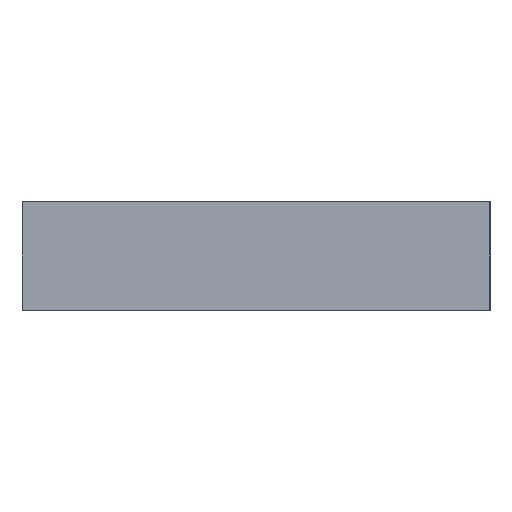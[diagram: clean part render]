
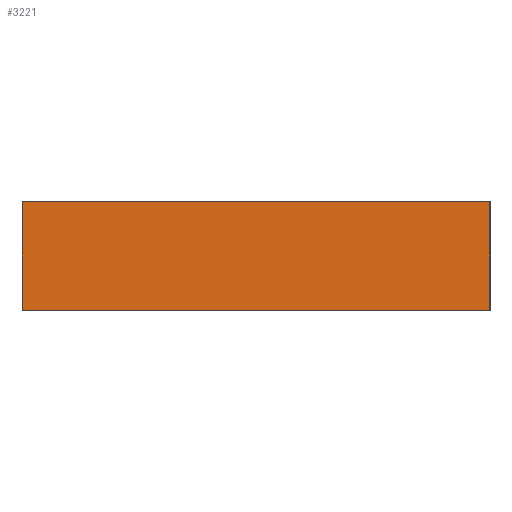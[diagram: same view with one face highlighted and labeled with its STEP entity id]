
A CAD part, left-side view. The second image highlights one B-rep face of the part: STEP entity #3221.
In plain terms, the highlighted planar face has unit normal (-1, 0, 0).
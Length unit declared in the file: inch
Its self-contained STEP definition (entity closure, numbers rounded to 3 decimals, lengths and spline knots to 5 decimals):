
#325 = LINE ( 'NONE', #10766, #9100 ) ;
#1085 = EDGE_CURVE ( 'NONE', #5265, #9794, #11584, .T. ) ;
#1321 = VECTOR ( 'NONE', #4287, 39.37008 ) ;
#3097 = FACE_OUTER_BOUND ( 'NONE', #10576, .T. ) ;
#3221 = ADVANCED_FACE ( 'NONE', ( #3097 ), #10520, .F. ) ;
#3493 = ORIENTED_EDGE ( 'NONE', *, *, #1085, .T. ) ;
#3854 = DIRECTION ( 'NONE',  ( 0., 1., 0. ) ) ;
#4287 = DIRECTION ( 'NONE',  ( 0., 0., 1. ) ) ;
#4522 = LINE ( 'NONE', #5697, #7163 ) ;
#5170 = ORIENTED_EDGE ( 'NONE', *, *, #10368, .T. ) ;
#5186 = ORIENTED_EDGE ( 'NONE', *, *, #7156, .F. ) ;
#5265 = VERTEX_POINT ( 'NONE', #7233 ) ;
#5697 = CARTESIAN_POINT ( 'NONE',  ( -14.09375, 22.9375, -2.65625 ) ) ;
#5859 = CARTESIAN_POINT ( 'NONE',  ( -14.09375, -0.56278, 2.65625 ) ) ;
#5881 = ORIENTED_EDGE ( 'NONE', *, *, #5896, .T. ) ;
#5896 = EDGE_CURVE ( 'NONE', #11380, #5265, #325, .T. ) ;
#6274 = VERTEX_POINT ( 'NONE', #13600 ) ;
#6405 = AXIS2_PLACEMENT_3D ( 'NONE', #9484, #11489, #7292 ) ;
#7156 = EDGE_CURVE ( 'NONE', #11380, #6274, #4522, .T. ) ;
#7161 = LINE ( 'NONE', #5859, #8372 ) ;
#7163 = VECTOR ( 'NONE', #12174, 39.37008 ) ;
#7233 = CARTESIAN_POINT ( 'NONE',  ( -14.09375, 0., -2.65625 ) ) ;
#7292 = DIRECTION ( 'NONE',  ( 0., 0., 1. ) ) ;
#8372 = VECTOR ( 'NONE', #3854, 39.37008 ) ;
#8705 = CARTESIAN_POINT ( 'NONE',  ( -14.09375, 22.9375, -2.65625 ) ) ;
#9100 = VECTOR ( 'NONE', #9869, 39.37008 ) ;
#9484 = CARTESIAN_POINT ( 'NONE',  ( -14.09375, 0., -2.65625 ) ) ;
#9794 = VERTEX_POINT ( 'NONE', #11646 ) ;
#9869 = DIRECTION ( 'NONE',  ( 0., -1., 0. ) ) ;
#10368 = EDGE_CURVE ( 'NONE', #9794, #6274, #7161, .T. ) ;
#10520 = PLANE ( 'NONE',  #6405 ) ;
#10576 = EDGE_LOOP ( 'NONE', ( #3493, #5170, #5186, #5881 ) ) ;
#10766 = CARTESIAN_POINT ( 'NONE',  ( -14.09375, 52.41723, -2.65625 ) ) ;
#11380 = VERTEX_POINT ( 'NONE', #8705 ) ;
#11489 = DIRECTION ( 'NONE',  ( 1., 0., 0. ) ) ;
#11524 = CARTESIAN_POINT ( 'NONE',  ( -14.09375, 0., -2.65625 ) ) ;
#11584 = LINE ( 'NONE', #11524, #1321 ) ;
#11646 = CARTESIAN_POINT ( 'NONE',  ( -14.09375, 0., 2.65625 ) ) ;
#12174 = DIRECTION ( 'NONE',  ( 0., 0., 1. ) ) ;
#13600 = CARTESIAN_POINT ( 'NONE',  ( -14.09375, 22.9375, 2.65625 ) ) ;
